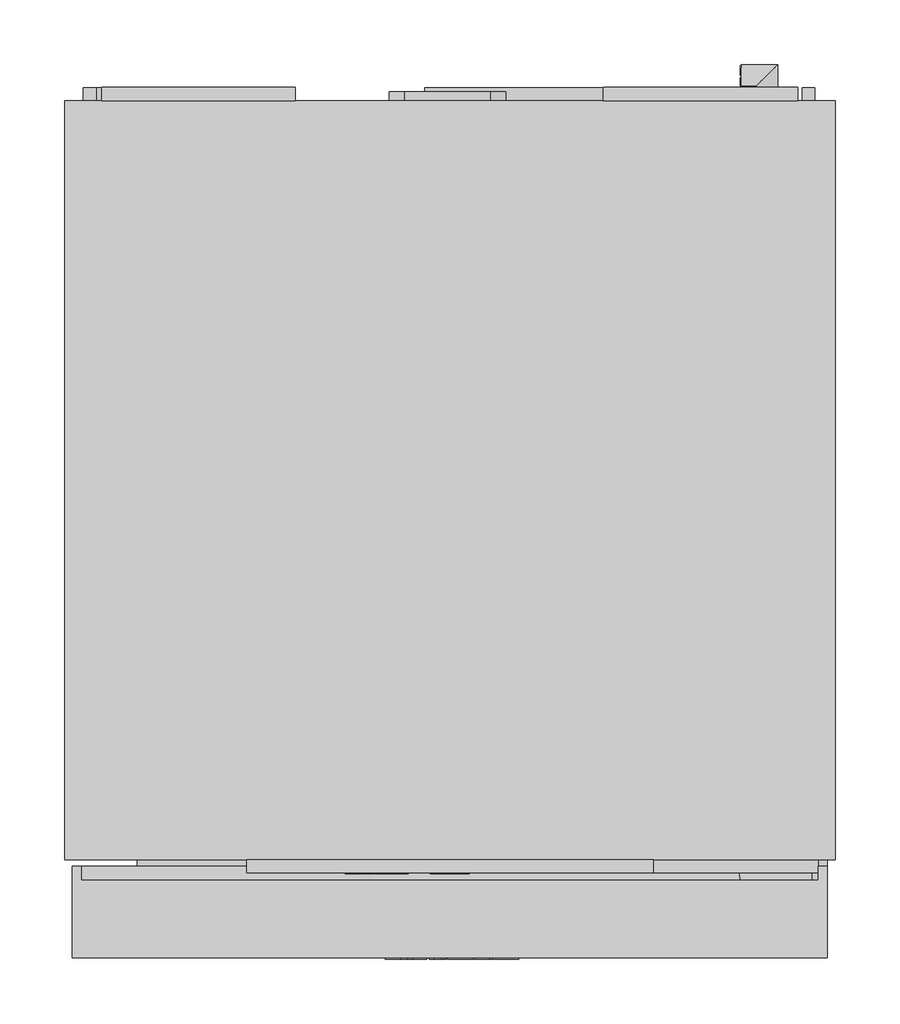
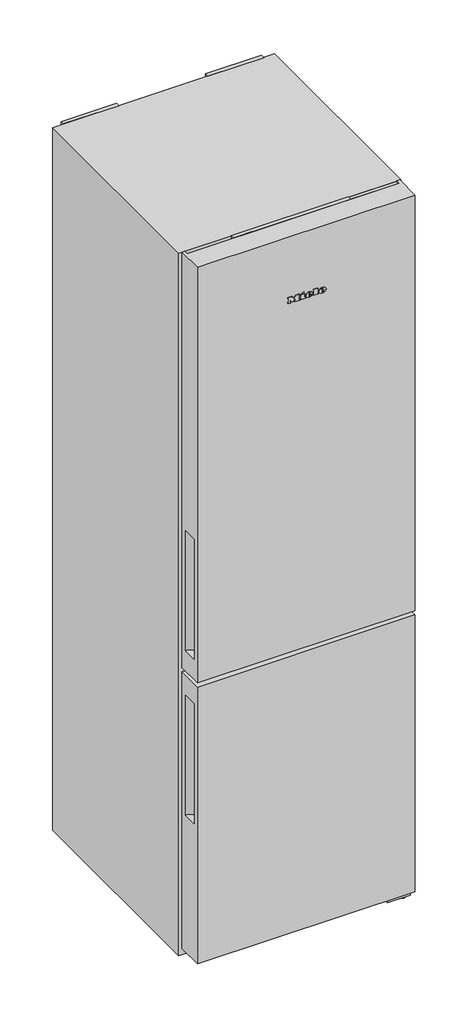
# Not in any storey: 1 proxy.
"""IFC4 building model written with IfcOpenShell, lengths in millimetres."""

from ifc_helpers import new_model, si_unit, origin, place, context, project, spatial, transform, mapped, element, save
from components import specialty_equipment_4ecd4c18

model = new_model("IFC4")

# Units and contexts
model_context = context("Model", 3, world=origin())
ifc_project = project(units=[si_unit("LENGTHUNIT", "METRE", prefix="MILLI")], contexts=[model_context])

# Site, building
site = spatial("IfcSite", under=ifc_project)
building = spatial("IfcBuilding", under=site)

# Proxy
placement = place(None, origin())
specialty_equipment_shape = specialty_equipment_4ecd4c18(model_context)
element("IfcBuildingElementProxy", 1, Name="12336270_OER_KFN4395CD_EL : 38439531_OER_12336270_KFN4395CD_EL", ObjectType="12336270_OER_KFN4395CD_EL : 38439531_OER_12336270_KFN4395CD_EL", at=placement, inside=building, context=model_context, shape_type="MappedRepresentation", body=[
    mapped(specialty_equipment_shape, transform((0.0, 0.0, 0.0), x_axis=(1.0, 0.0, 0.0), y_axis=(0.0, 1.0, 0.0), z_axis=(0.0, 0.0, 1.0))),
])

save(model, "model.ifc")
